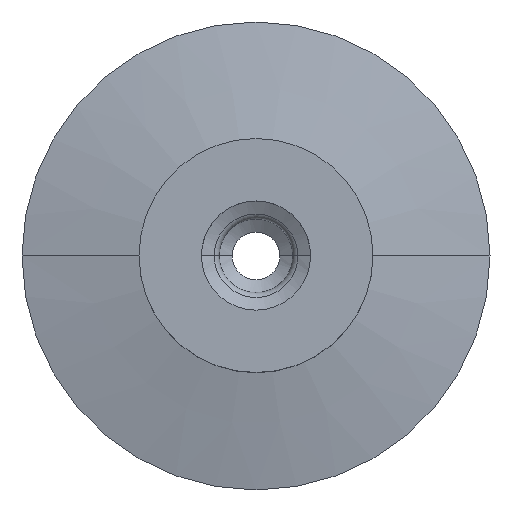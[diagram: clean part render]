
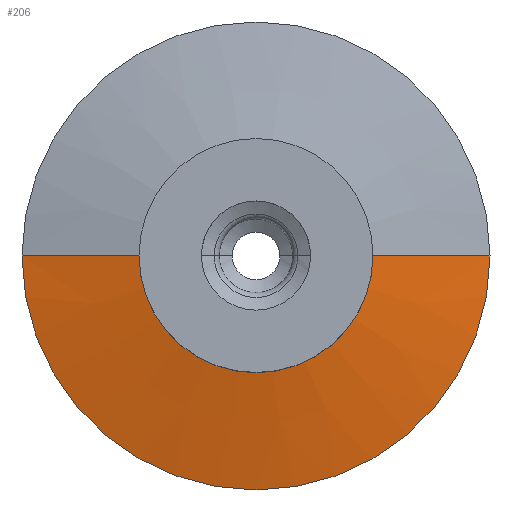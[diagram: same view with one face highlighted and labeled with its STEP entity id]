
A CAD part, top view. The second image highlights one B-rep face of the part: STEP entity #206.
In plain terms, the highlighted conical face has half-angle 78.118 degrees and reference radius 15 mm.
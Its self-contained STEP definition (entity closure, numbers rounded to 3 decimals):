
#25 = CARTESIAN_POINT ( 'NONE',  ( 0., 0., -17.5 ) ) ;
#26 = DIRECTION ( 'NONE',  ( 0.979, 0., -0.206 ) ) ;
#27 = AXIS2_PLACEMENT_3D ( 'NONE', #25, #703, #198 ) ;
#65 = CARTESIAN_POINT ( 'NONE',  ( 2.31, 0., -14.83 ) ) ;
#130 = DIRECTION ( 'NONE',  ( -0.979, 0., -0.206 ) ) ;
#152 = VERTEX_POINT ( 'NONE', #707 ) ;
#171 = ORIENTED_EDGE ( 'NONE', *, *, #489, .F. ) ;
#198 = DIRECTION ( 'NONE',  ( 1., 0., 0. ) ) ;
#206 = ADVANCED_FACE ( 'NONE', ( #416 ), #752, .T. ) ;
#240 = DIRECTION ( 'NONE',  ( 0., 0., 1. ) ) ;
#253 = CARTESIAN_POINT ( 'NONE',  ( 0., 0., -14.83 ) ) ;
#356 = VECTOR ( 'NONE', #26, 1000. ) ;
#366 = CIRCLE ( 'NONE', #930, 2.31 ) ;
#371 = CARTESIAN_POINT ( 'NONE',  ( 0., 0., -17.5 ) ) ;
#415 = ORIENTED_EDGE ( 'NONE', *, *, #798, .T. ) ;
#416 = FACE_OUTER_BOUND ( 'NONE', #743, .T. ) ;
#450 = ORIENTED_EDGE ( 'NONE', *, *, #471, .T. ) ;
#457 = CARTESIAN_POINT ( 'NONE',  ( -15., 0., -17.5 ) ) ;
#465 = CIRCLE ( 'NONE', #27, 15. ) ;
#471 = EDGE_CURVE ( 'NONE', #152, #760, #586, .T. ) ;
#489 = EDGE_CURVE ( 'NONE', #553, #708, #660, .T. ) ;
#503 = DIRECTION ( 'NONE',  ( -1., 0., 0. ) ) ;
#539 = CARTESIAN_POINT ( 'NONE',  ( -15., 0., -17.5 ) ) ;
#553 = VERTEX_POINT ( 'NONE', #65 ) ;
#574 = ORIENTED_EDGE ( 'NONE', *, *, #655, .F. ) ;
#586 = LINE ( 'NONE', #457, #717 ) ;
#629 = AXIS2_PLACEMENT_3D ( 'NONE', #371, #880, #503 ) ;
#655 = EDGE_CURVE ( 'NONE', #152, #553, #366, .T. ) ;
#660 = LINE ( 'NONE', #870, #356 ) ;
#703 = DIRECTION ( 'NONE',  ( 0., 0., 1. ) ) ;
#707 = CARTESIAN_POINT ( 'NONE',  ( -2.31, 0., -14.83 ) ) ;
#708 = VERTEX_POINT ( 'NONE', #804 ) ;
#717 = VECTOR ( 'NONE', #130, 1000. ) ;
#743 = EDGE_LOOP ( 'NONE', ( #171, #574, #450, #415 ) ) ;
#752 = CONICAL_SURFACE ( 'NONE', #629, 15., 1.363 ) ;
#760 = VERTEX_POINT ( 'NONE', #539 ) ;
#798 = EDGE_CURVE ( 'NONE', #760, #708, #465, .T. ) ;
#804 = CARTESIAN_POINT ( 'NONE',  ( 15., 0., -17.5 ) ) ;
#870 = CARTESIAN_POINT ( 'NONE',  ( 15., 0., -17.5 ) ) ;
#880 = DIRECTION ( 'NONE',  ( 0., 0., -1. ) ) ;
#884 = DIRECTION ( 'NONE',  ( 1., 0., 0. ) ) ;
#930 = AXIS2_PLACEMENT_3D ( 'NONE', #253, #240, #884 ) ;
